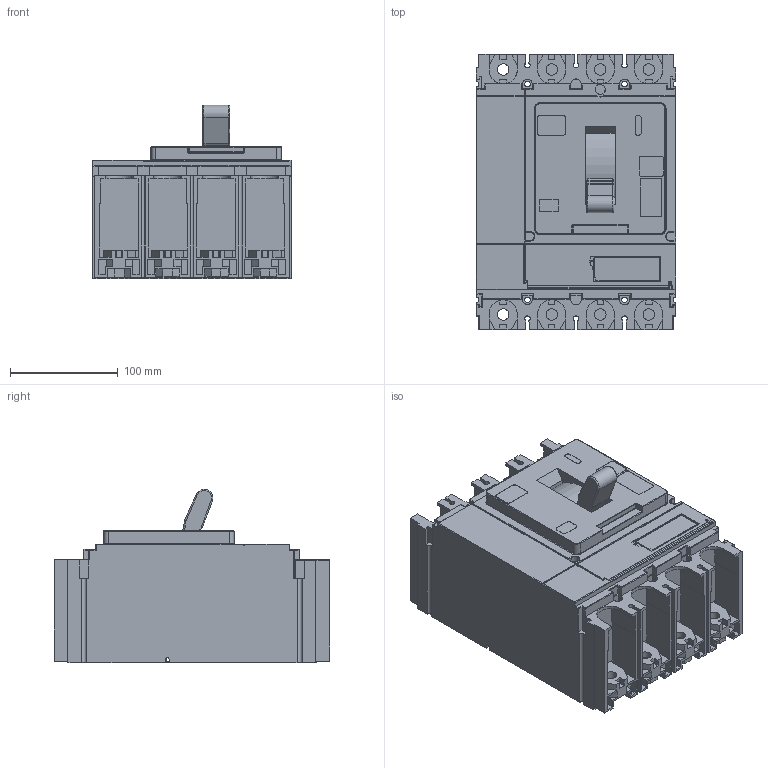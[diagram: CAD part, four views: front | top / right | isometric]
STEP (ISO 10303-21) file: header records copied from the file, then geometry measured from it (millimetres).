
FILE_DESCRIPTION((''),'2;1');
FILE_NAME('ASM0002_ASM','2020-12-15T16:25:30',('user-pc'),('Schneider-Electric'),'CREO PARAMETRIC BY PTC INC, 2018300','CREO PARAMETRIC BY PTC INC, 2018300','');
FILE_SCHEMA(('CONFIG_CONTROL_DESIGN'));
Length unit declared in the file: millimetre
Products named in the file (2): C63W45E630_3D-SIMPLIFIED; ASM0002_ASM
Assembly tree (1 placements, depth 2):
  ASM0002_ASM
    C63W45E630_3D-SIMPLIFIED
Bounding box: 184.74 x 255 x 160.82 mm (x, y, z)
Volume: 4444124.4 mm3; surface area: 290798.6 mm2
Topology: 1 solids, 1 shells, 1182 faces, 3311 edges, 2163 vertices
Faces by surface type: plane 794, cylinder 318, sphere 27, torus 25, bspline 14, extrusion 4
Entity records: 38906 total; most frequent: CARTESIAN_POINT 8074, ORIENTED_EDGE 6594, DIRECTION 6217, EDGE_CURVE 3297, VECTOR 2517, LINE 2513, VERTEX_POINT 2163, AXIS2_PLACEMENT_3D 1850
